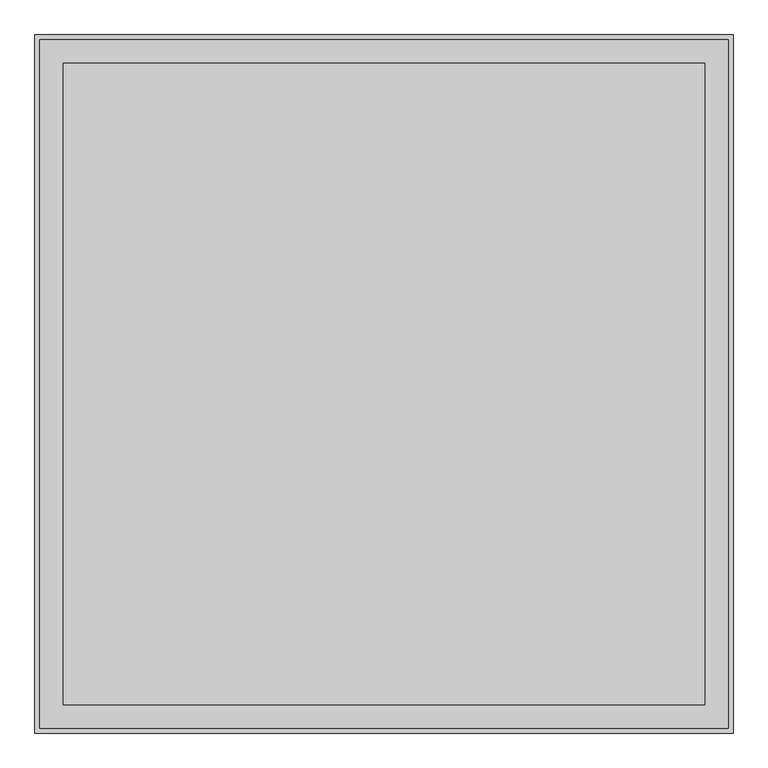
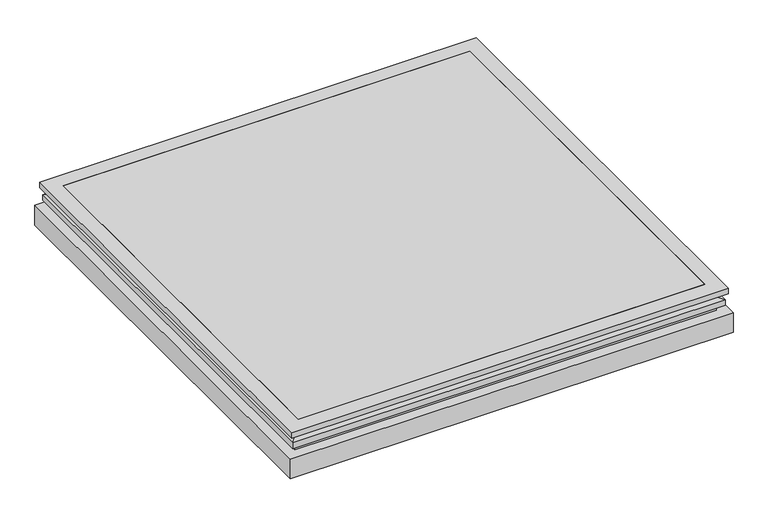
"""IFC4 building model written with IfcOpenShell, lengths in millimetres: proxy geometry, TRP_CP_ARC_FI_OR : AL_VE_210_210."""

from ifc_helpers import new_model, si_unit, frame, origin, place, context, project, spatial, polyline, outline, extrude, faceted_brep, source, transform, mapped, element, save


def generic_models_3f613b9e(model_context):
    return source(origin(), model_context, "Body", "SolidModel", [
        extrude(outline(polyline([(964.5, -964.5), (-964.5, -964.5), (-964.5, 964.5), (964.5, 964.5), (964.5, -964.5)])), frame((0.0, 0.0, 4352.4), z_axis=(0.0, 0.0, 1.0), x_axis=(1.0, 0.0, 0.0)), (0.0, 0.0, 1.0), 27.6345711),
        extrude(outline(polyline([(1035.0, -1035.0), (-1035.0, -1035.0), (-1035.0, 1035.0), (1035.0, 1035.0), (1035.0, -1035.0)]), holes=[polyline([(964.5, 964.5), (-964.5, 964.5), (-964.5, -964.5), (964.5, -964.5), (964.5, 964.5)])]), frame((0.0, 0.0, 4352.4), z_axis=(0.0, 0.0, 1.0), x_axis=(1.0, 0.0, 0.0)), (0.0, 0.0, 1.0), 27.6345711),
        extrude(outline(polyline([(1000.0, -1000.0), (-1000.0, -1000.0), (-1000.0, 1000.0), (1000.0, 1000.0), (1000.0, -1000.0)]), holes=[polyline([(964.5, 964.5), (-964.5, 964.5), (-964.5, -964.5), (964.5, -964.5), (964.5, 964.5)])]), frame((0.0, 0.0, 4161.1996506), z_axis=(0.0, 0.0, 1.0), x_axis=(1.0, 0.0, 0.0)), (0.0, 0.0, 1.0), 119.7298732),
        extrude(outline(polyline([(1050.0, 1050.0), (1050.0, -1050.0), (-1050.0, -1050.0), (-1050.0, 1050.0), (1050.0, 1050.0)]), holes=[polyline([(1000.0, 1000.0), (-1000.0, 1000.0), (-1000.0, -1000.0), (1000.0, -1000.0), (1000.0, 1000.0)])]), frame((0.0, 0.0, 4161.1996506), z_axis=(0.0, 0.0, 1.0), x_axis=(1.0, 0.0, 0.0)), (0.0, 0.0, 1.0), 98.8003494),
        faceted_brep([(1000.0, 1000.0, 4326.1339362), (1000.0, 1000.0, 4352.4), (1000.0, -1000.0, 4352.4), (1000.0, -1000.0, 4326.1339362), (1026.0955794, 1026.0955794, 4290.9295239), (1026.0955794, 1026.0955794, 4319.4705524), (1026.0955794, -1026.0955794, 4319.4705524), (1026.0955794, -1026.0955794, 4290.9295239), (1000.0, 1000.0, 4280.9295239), (1000.0, 1000.0, 4290.9295239), (1000.0, -1000.0, 4290.9295239), (1000.0, -1000.0, 4280.9295239), (964.5, 964.5, 4352.4), (964.5, 964.5, 4280.9295239), (964.5, -964.5, 4280.9295239), (964.5, -964.5, 4352.4), (-1000.0, -1000.0, 4352.4), (-1000.0, -1000.0, 4326.1339362), (-1026.0955794, -1026.0955794, 4319.4705524), (-1026.0955794, -1026.0955794, 4290.9295239), (-1000.0, -1000.0, 4290.9295239), (-1000.0, -1000.0, 4280.9295239), (-964.5, -964.5, 4280.9295239), (-964.5, -964.5, 4352.4), (-1000.0, 1000.0, 4352.4), (-1000.0, 1000.0, 4326.1339362), (-1026.0955794, 1026.0955794, 4319.4705524), (-1026.0955794, 1026.0955794, 4290.9295239), (-1000.0, 1000.0, 4290.9295239), (-1000.0, 1000.0, 4280.9295239), (-964.5, 964.5, 4280.9295239), (-964.5, 964.5, 4352.4)], [[[0, 1, 2, 3]], [[4, 5, 6, 7]], [[8, 9, 10, 11]], [[12, 13, 14, 15]], [[3, 2, 16, 17]], [[7, 6, 18, 19]], [[11, 10, 20, 21]], [[15, 14, 22, 23]], [[17, 16, 24, 25]], [[19, 18, 26, 27]], [[21, 20, 28, 29]], [[23, 22, 30, 31]], [[25, 24, 1, 0]], [[27, 26, 5, 4]], [[7, 19, 27, 4], [9, 28, 20, 10]], [[29, 28, 9, 8]], [[31, 30, 13, 12]], [[1, 24, 16, 2], [15, 23, 31, 12]], [[11, 21, 29, 8], [13, 30, 22, 14]], [[5, 0, 3, 6]], [[6, 3, 17, 18]], [[18, 17, 25, 26]], [[26, 25, 0, 5]]]),
    ])


if __name__ == "__main__":
    model = new_model("IFC4")
    model_context = context("Model", 3, world=origin())
    ifc_project = project(units=[si_unit("LENGTHUNIT", "METRE", prefix="MILLI")], contexts=[model_context])
    site = spatial("IfcSite", under=ifc_project)
    building = spatial("IfcBuilding", under=site)
    placement = place(None, origin())
    generic_models_shape = generic_models_3f613b9e(model_context)
    element("IfcBuildingElementProxy", 1, Name="TRP_CP_ARC_FI_OR : AL_VE_210_210", ObjectType="TRP_CP_ARC_FI_OR : AL_VE_210_210", at=placement, inside=building, context=model_context, shape_type="MappedRepresentation", body=[
        mapped(generic_models_shape, transform((0.0, 0.0, 0.0), x_axis=(1.0, 0.0, 0.0), y_axis=(0.0, 1.0, 0.0), z_axis=(0.0, 0.0, 1.0))),
    ])
    save(model, "model.ifc")
